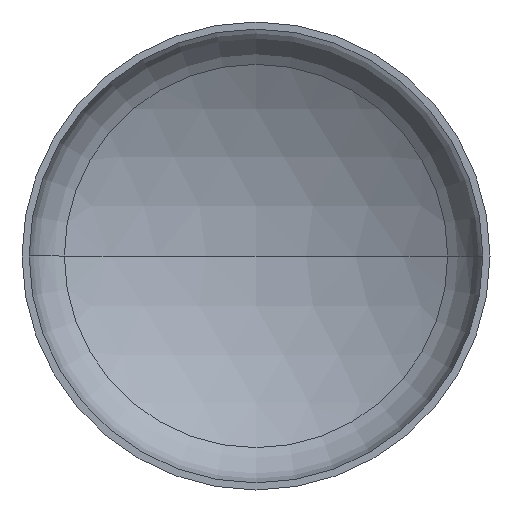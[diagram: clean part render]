
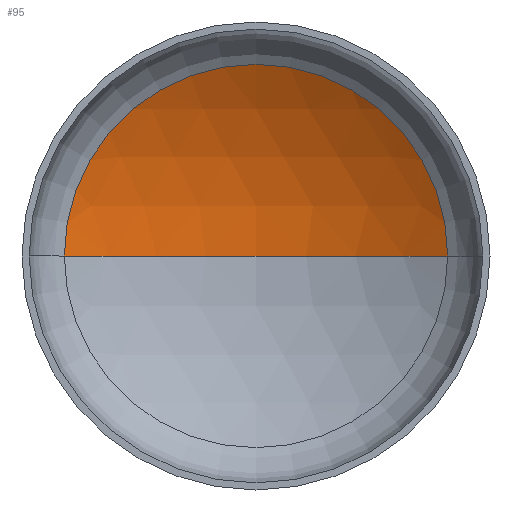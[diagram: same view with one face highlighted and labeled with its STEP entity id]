
A CAD part, front view. The second image highlights one B-rep face of the part: STEP entity #95.
In plain terms, the highlighted spherical face has radius 3040 mm.
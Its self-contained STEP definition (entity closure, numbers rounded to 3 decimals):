
#1 = VERTEX_POINT ( 'NONE', #247 ) ;
#8 = EDGE_LOOP ( 'NONE', ( #98, #77, #30 ) ) ;
#14 = AXIS2_PLACEMENT_3D ( 'NONE', #234, #352, #355 ) ;
#17 = AXIS2_PLACEMENT_3D ( 'NONE', #166, #241, #394 ) ;
#20 = AXIS2_PLACEMENT_3D ( 'NONE', #171, #117, #120 ) ;
#30 = ORIENTED_EDGE ( 'NONE', *, *, #347, .T. ) ;
#51 = AXIS2_PLACEMENT_3D ( 'NONE', #297, #287, #296 ) ;
#72 = VERTEX_POINT ( 'NONE', #368 ) ;
#77 = ORIENTED_EDGE ( 'NONE', *, *, #337, .T. ) ;
#95 = ADVANCED_FACE ( 'NONE', ( #381 ), #318, .F. ) ;
#98 = ORIENTED_EDGE ( 'NONE', *, *, #340, .F. ) ;
#102 = VERTEX_POINT ( 'NONE', #212 ) ;
#117 = DIRECTION ( 'NONE',  ( 0., 0., -1. ) ) ;
#120 = DIRECTION ( 'NONE',  ( -1., 0., 0. ) ) ;
#162 = CIRCLE ( 'NONE', #17, 3040. ) ;
#166 = CARTESIAN_POINT ( 'NONE',  ( 0., -1988.785, 0. ) ) ;
#171 = CARTESIAN_POINT ( 'NONE',  ( 0., -1988.785, 0. ) ) ;
#212 = CARTESIAN_POINT ( 'NONE',  ( 0., 1051.215, 0. ) ) ;
#234 = CARTESIAN_POINT ( 'NONE',  ( 0., 622.501, 0. ) ) ;
#241 = DIRECTION ( 'NONE',  ( 0., 0., 1. ) ) ;
#246 = CIRCLE ( 'NONE', #20, 3040. ) ;
#247 = CARTESIAN_POINT ( 'NONE',  ( 1556.53, 622.501, 0. ) ) ;
#287 = DIRECTION ( 'NONE',  ( 0., 0., -1. ) ) ;
#296 = DIRECTION ( 'NONE',  ( -1., 0., 0. ) ) ;
#297 = CARTESIAN_POINT ( 'NONE',  ( 0., -1988.785, 0. ) ) ;
#318 = SPHERICAL_SURFACE ( 'NONE', #51, 3040. ) ;
#337 = EDGE_CURVE ( 'NONE', #102, #1, #246, .T. ) ;
#340 = EDGE_CURVE ( 'NONE', #102, #72, #162, .T. ) ;
#347 = EDGE_CURVE ( 'NONE', #1, #72, #351, .T. ) ;
#351 = CIRCLE ( 'NONE', #14, 1556.53 ) ;
#352 = DIRECTION ( 'NONE',  ( 0., -1., 0. ) ) ;
#355 = DIRECTION ( 'NONE',  ( 1., 0., 0. ) ) ;
#368 = CARTESIAN_POINT ( 'NONE',  ( -1556.53, 622.501, 0. ) ) ;
#381 = FACE_OUTER_BOUND ( 'NONE', #8, .T. ) ;
#394 = DIRECTION ( 'NONE',  ( 1., 0., 0. ) ) ;
